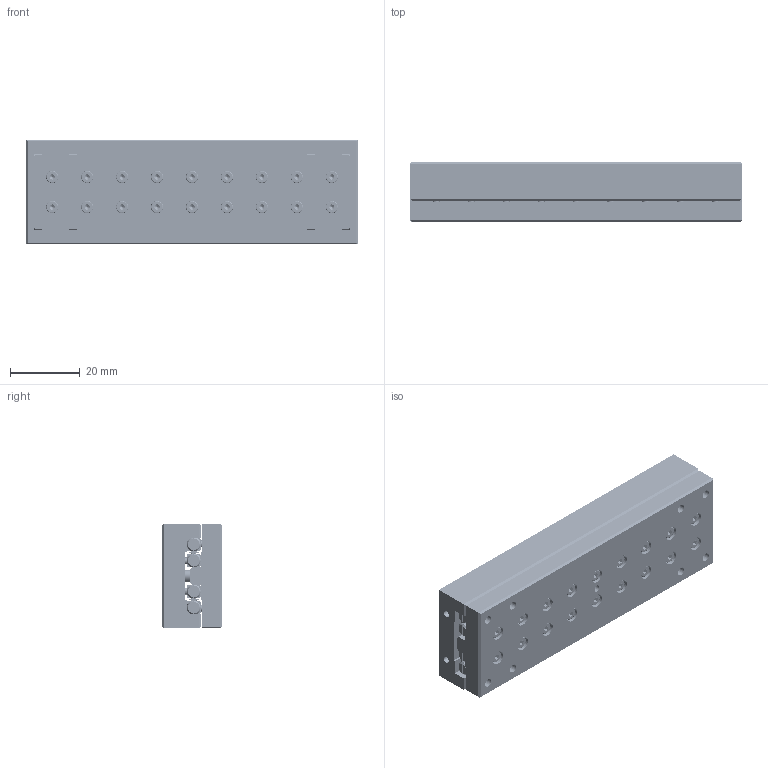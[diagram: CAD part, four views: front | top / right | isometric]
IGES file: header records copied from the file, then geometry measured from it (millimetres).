
Start section: SolidWorks IGES file using analytic representation for surfaces
Global section: file name: C:\Documents and Settings\IanO.IANOHOME\My Documents\Wix and Auto CAD Work\CAD Models\Parametric Models\Auto Models\L1020\L1020_IGES\L1020.030-095.igs; native system: SolidWorks 2009; preprocessor: SolidWorks 2009; author: IanO; date: 110922.162124; units: millimetre
Bounding box: 95 x 17 x 30 mm (x, y, z)
Surface area: 31725.5 mm2 (no closed solid volume)
Topology: 0 solids, 0 shells, 2328 faces, 28780 edges, 28690 vertices
Faces by surface type: bspline 1422, revolution 906
